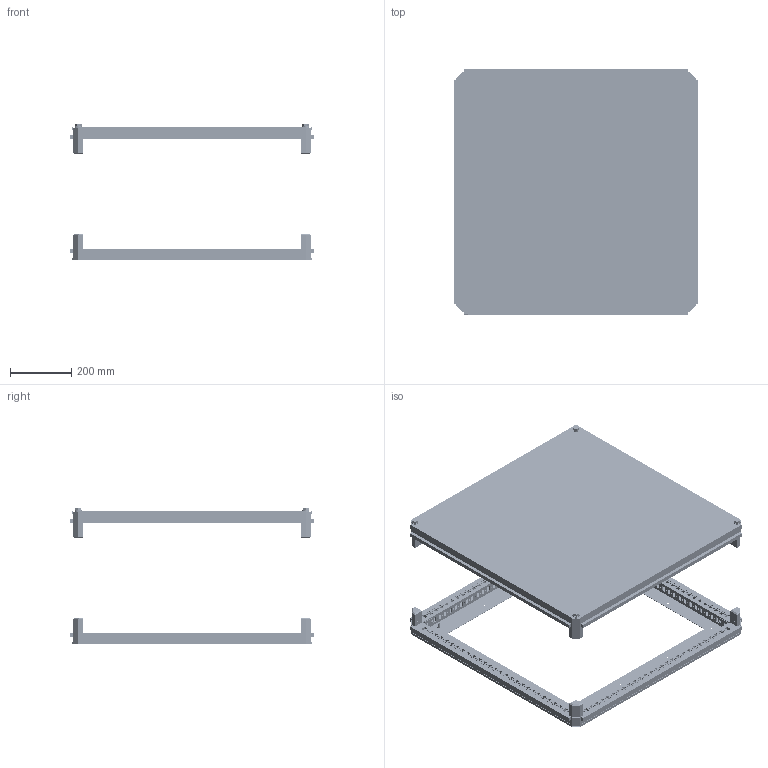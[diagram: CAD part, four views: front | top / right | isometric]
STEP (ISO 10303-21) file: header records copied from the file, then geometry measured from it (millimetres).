
FILE_DESCRIPTION (( 'STEP AP214' ), '1' );
FILE_NAME ('FO-00-KOF-080-080 Êðûøà è îñíîâàíèå (ïîä ôëàíåö) 800õ800 ìì.STEP', '2025-08-25T11:59:53', ( '' ), ( '' ), 'SwSTEP 2.0', 'SolidWorks 2023', '' );
FILE_SCHEMA (( 'AUTOMOTIVE_DESIGN' ));
Products named in the file (3): Крыша под фланец 800х800; FO-00-KOF-080-080 Крыша и основание (под фланец) 800х800 мм; Основание под фланец 800х800
Assembly tree (2 placements, depth 2):
  FO-00-KOF-080-080 Крыша и основание (под фланец) 800х800 мм
    Основание под фланец 800х800
    Крыша под фланец 800х800
Bounding box: 800 x 800 x 446.9 mm (x, y, z)
Volume: 4132543.7 mm3; surface area: 3495464.8 mm2
Topology: 6 solids, 34 shells, 5481 faces, 15267 edges, 10109 vertices
Faces by surface type: plane 3297, cylinder 1744, cone 248, bspline 192
Entity records: 183436 total; most frequent: CARTESIAN_POINT 38237, ORIENTED_EDGE 30534, DIRECTION 28838, EDGE_CURVE 15267, LINE 10384, VECTOR 10384, VERTEX_POINT 10109, AXIS2_PLACEMENT_3D 9227
